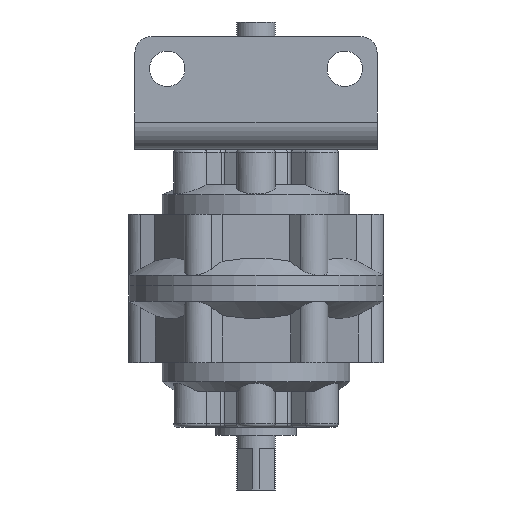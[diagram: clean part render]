
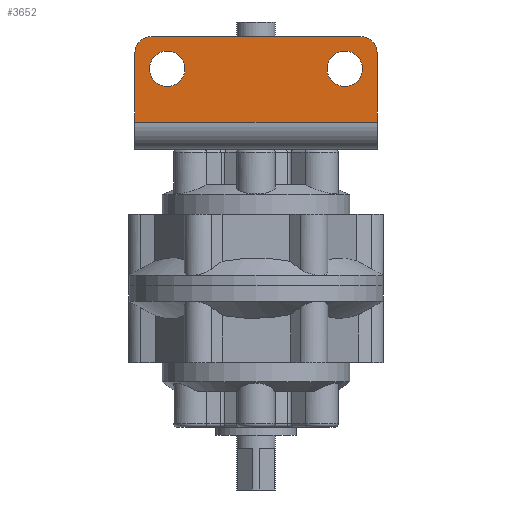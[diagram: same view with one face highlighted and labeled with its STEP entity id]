
A CAD part, front view. The second image highlights one B-rep face of the part: STEP entity #3652.
In plain terms, the highlighted planar face has unit normal (0, -1, 0).
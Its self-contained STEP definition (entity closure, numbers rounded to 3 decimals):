
#37 = CARTESIAN_POINT ( 'NONE',  ( -37.5, -45., 30.5 ) ) ;
#86 = AXIS2_PLACEMENT_3D ( 'NONE', #3614, #10875, #13885 ) ;
#111 = EDGE_CURVE ( 'NONE', #13622, #15738, #3296, .T. ) ;
#124 = ORIENTED_EDGE ( 'NONE', *, *, #5482, .F. ) ;
#192 = AXIS2_PLACEMENT_3D ( 'NONE', #19143, #1188, #10214 ) ;
#198 = AXIS2_PLACEMENT_3D ( 'NONE', #11023, #18468, #15697 ) ;
#248 = DIRECTION ( 'NONE',  ( 0., -1., 0. ) ) ;
#495 = DIRECTION ( 'NONE',  ( 0., -1., 0. ) ) ;
#995 = CARTESIAN_POINT ( 'NONE',  ( -37.5, -45., -4.5 ) ) ;
#1139 = CIRCLE ( 'NONE', #13545, 5. ) ;
#1182 = VERTEX_POINT ( 'NONE', #2255 ) ;
#1188 = DIRECTION ( 'NONE',  ( 0., 1., 0. ) ) ;
#1439 = CARTESIAN_POINT ( 'NONE',  ( 27.5, -45., 26. ) ) ;
#1477 = VERTEX_POINT ( 'NONE', #14056 ) ;
#2123 = CARTESIAN_POINT ( 'NONE',  ( -27.5, -45., 15. ) ) ;
#2255 = CARTESIAN_POINT ( 'NONE',  ( 37.5, -45., 25.5 ) ) ;
#2352 = VECTOR ( 'NONE', #14086, 1000. ) ;
#2543 = DIRECTION ( 'NONE',  ( 0., 0., 1. ) ) ;
#2861 = EDGE_CURVE ( 'NONE', #8360, #9673, #7373, .T. ) ;
#3296 = LINE ( 'NONE', #8266, #2352 ) ;
#3394 = EDGE_CURVE ( 'NONE', #9673, #8360, #6872, .T. ) ;
#3614 = CARTESIAN_POINT ( 'NONE',  ( -27.5, -45., 20.5 ) ) ;
#3652 = ADVANCED_FACE ( 'NONE', ( #17606, #19234, #13183 ), #10225, .T. ) ;
#3725 = CARTESIAN_POINT ( 'NONE',  ( 27.5, -45., 20.5 ) ) ;
#4108 = ORIENTED_EDGE ( 'NONE', *, *, #2861, .F. ) ;
#4172 = ORIENTED_EDGE ( 'NONE', *, *, #3394, .F. ) ;
#5031 = CARTESIAN_POINT ( 'NONE',  ( -32.5, -45., 25.5 ) ) ;
#5129 = CARTESIAN_POINT ( 'NONE',  ( 27.5, -45., 15. ) ) ;
#5482 = EDGE_CURVE ( 'NONE', #13622, #18960, #12654, .T. ) ;
#5614 = CARTESIAN_POINT ( 'NONE',  ( -27.5, -45., 26. ) ) ;
#5641 = DIRECTION ( 'NONE',  ( 0., -1., 0. ) ) ;
#6671 = DIRECTION ( 'NONE',  ( 0., 0., -1. ) ) ;
#6872 = CIRCLE ( 'NONE', #86, 5.5 ) ;
#7373 = CIRCLE ( 'NONE', #198, 5.5 ) ;
#7566 = ORIENTED_EDGE ( 'NONE', *, *, #12289, .F. ) ;
#8028 = DIRECTION ( 'NONE',  ( 0., 0., -1. ) ) ;
#8266 = CARTESIAN_POINT ( 'NONE',  ( 37.5, -45., 4. ) ) ;
#8360 = VERTEX_POINT ( 'NONE', #5614 ) ;
#8675 = VECTOR ( 'NONE', #9604, 1000. ) ;
#8929 = EDGE_CURVE ( 'NONE', #10680, #12452, #17154, .T. ) ;
#9060 = EDGE_LOOP ( 'NONE', ( #7566, #13872, #124, #15727, #16719, #14635 ) ) ;
#9094 = CARTESIAN_POINT ( 'NONE',  ( 32.5, -45., 25.5 ) ) ;
#9604 = DIRECTION ( 'NONE',  ( 0., 0., 1. ) ) ;
#9619 = DIRECTION ( 'NONE',  ( 0., 1., 0. ) ) ;
#9673 = VERTEX_POINT ( 'NONE', #2123 ) ;
#9700 = CIRCLE ( 'NONE', #11718, 5.5 ) ;
#9809 = CARTESIAN_POINT ( 'NONE',  ( 37.5, -45., -4.5 ) ) ;
#10032 = ORIENTED_EDGE ( 'NONE', *, *, #8929, .T. ) ;
#10214 = DIRECTION ( 'NONE',  ( 0., 0., -1. ) ) ;
#10225 = PLANE ( 'NONE',  #19368 ) ;
#10506 = DIRECTION ( 'NONE',  ( 1., 0., 0. ) ) ;
#10680 = VERTEX_POINT ( 'NONE', #1439 ) ;
#10771 = EDGE_LOOP ( 'NONE', ( #4108, #4172 ) ) ;
#10875 = DIRECTION ( 'NONE',  ( 0., -1., 0. ) ) ;
#11023 = CARTESIAN_POINT ( 'NONE',  ( -27.5, -45., 20.5 ) ) ;
#11718 = AXIS2_PLACEMENT_3D ( 'NONE', #3725, #9619, #6671 ) ;
#11876 = CARTESIAN_POINT ( 'NONE',  ( -37.5, -45., 25.5 ) ) ;
#11922 = VECTOR ( 'NONE', #10506, 1000. ) ;
#12289 = EDGE_CURVE ( 'NONE', #1477, #14244, #17029, .T. ) ;
#12452 = VERTEX_POINT ( 'NONE', #5129 ) ;
#12554 = CIRCLE ( 'NONE', #16549, 5. ) ;
#12654 = LINE ( 'NONE', #16908, #8675 ) ;
#12855 = EDGE_CURVE ( 'NONE', #1477, #18960, #1139, .T. ) ;
#12984 = CARTESIAN_POINT ( 'NONE',  ( -37.5, -45., 4. ) ) ;
#13183 = FACE_BOUND ( 'NONE', #13403, .T. ) ;
#13403 = EDGE_LOOP ( 'NONE', ( #10032, #17087 ) ) ;
#13545 = AXIS2_PLACEMENT_3D ( 'NONE', #5031, #495, #8028 ) ;
#13622 = VERTEX_POINT ( 'NONE', #12984 ) ;
#13872 = ORIENTED_EDGE ( 'NONE', *, *, #12855, .T. ) ;
#13885 = DIRECTION ( 'NONE',  ( 0., 0., -1. ) ) ;
#13949 = EDGE_CURVE ( 'NONE', #15738, #1182, #19093, .T. ) ;
#14056 = CARTESIAN_POINT ( 'NONE',  ( -32.5, -45., 30.5 ) ) ;
#14086 = DIRECTION ( 'NONE',  ( 1., 0., 0. ) ) ;
#14244 = VERTEX_POINT ( 'NONE', #16506 ) ;
#14635 = ORIENTED_EDGE ( 'NONE', *, *, #18263, .T. ) ;
#15027 = DIRECTION ( 'NONE',  ( 0., 0., -1. ) ) ;
#15331 = VECTOR ( 'NONE', #2543, 1000. ) ;
#15697 = DIRECTION ( 'NONE',  ( 0., 0., -1. ) ) ;
#15727 = ORIENTED_EDGE ( 'NONE', *, *, #111, .T. ) ;
#15738 = VERTEX_POINT ( 'NONE', #17281 ) ;
#16067 = DIRECTION ( 'NONE',  ( 0., 0., -1. ) ) ;
#16506 = CARTESIAN_POINT ( 'NONE',  ( 32.5, -45., 30.5 ) ) ;
#16549 = AXIS2_PLACEMENT_3D ( 'NONE', #9094, #248, #15027 ) ;
#16719 = ORIENTED_EDGE ( 'NONE', *, *, #13949, .T. ) ;
#16908 = CARTESIAN_POINT ( 'NONE',  ( -37.5, -45., -4.5 ) ) ;
#17029 = LINE ( 'NONE', #37, #11922 ) ;
#17087 = ORIENTED_EDGE ( 'NONE', *, *, #19325, .T. ) ;
#17154 = CIRCLE ( 'NONE', #192, 5.5 ) ;
#17281 = CARTESIAN_POINT ( 'NONE',  ( 37.5, -45., 4. ) ) ;
#17606 = FACE_OUTER_BOUND ( 'NONE', #9060, .T. ) ;
#18263 = EDGE_CURVE ( 'NONE', #1182, #14244, #12554, .T. ) ;
#18468 = DIRECTION ( 'NONE',  ( 0., -1., 0. ) ) ;
#18960 = VERTEX_POINT ( 'NONE', #11876 ) ;
#19093 = LINE ( 'NONE', #9809, #15331 ) ;
#19143 = CARTESIAN_POINT ( 'NONE',  ( 27.5, -45., 20.5 ) ) ;
#19234 = FACE_BOUND ( 'NONE', #10771, .T. ) ;
#19325 = EDGE_CURVE ( 'NONE', #12452, #10680, #9700, .T. ) ;
#19368 = AXIS2_PLACEMENT_3D ( 'NONE', #995, #5641, #16067 ) ;
